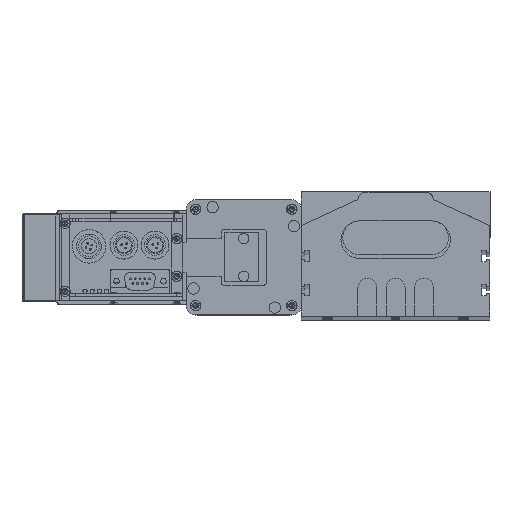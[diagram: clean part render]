
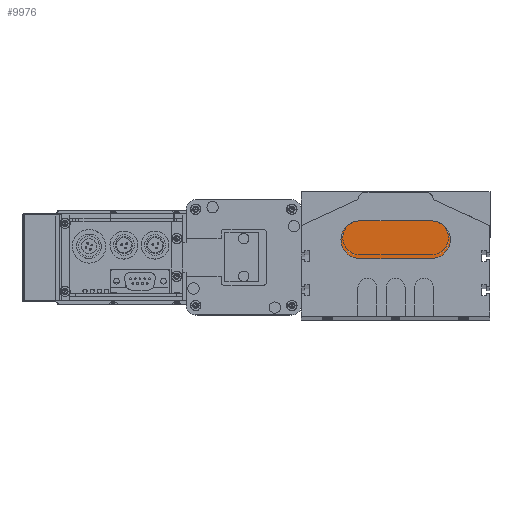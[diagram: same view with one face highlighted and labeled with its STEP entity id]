
A CAD part, top view. The second image highlights one B-rep face of the part: STEP entity #9976.
In plain terms, the highlighted planar face has unit normal (0, 0, 1).
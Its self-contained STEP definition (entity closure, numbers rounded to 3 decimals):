
#9254 = VERTEX_POINT ( 'NONE', #15575 ) ;
#9976 = ADVANCED_FACE ( 'NONE', ( #17580 ), #17545, .T. ) ;
#10046 = VERTEX_POINT ( 'NONE', #17784 ) ;
#10050 = EDGE_CURVE ( 'NONE', #10046, #10826, #17785, .T. ) ;
#10053 = EDGE_CURVE ( 'NONE', #10901, #10046, #17783, .T. ) ;
#10056 = ORIENTED_EDGE ( 'NONE', *, *, #10846, .T. ) ;
#10057 = EDGE_LOOP ( 'NONE', ( #35208, #10871, #10056, #35207, #10154 ) ) ;
#10154 = ORIENTED_EDGE ( 'NONE', *, *, #10050, .T. ) ;
#10610 = EDGE_CURVE ( 'NONE', #10826, #9254, #18563, .T. ) ;
#10826 = VERTEX_POINT ( 'NONE', #18892 ) ;
#10846 = EDGE_CURVE ( 'NONE', #12650, #10901, #18934, .T. ) ;
#10871 = ORIENTED_EDGE ( 'NONE', *, *, #12510, .T. ) ;
#10901 = VERTEX_POINT ( 'NONE', #19004 ) ;
#12510 = EDGE_CURVE ( 'NONE', #9254, #12650, #19507, .T. ) ;
#12650 = VERTEX_POINT ( 'NONE', #19483 ) ;
#15575 = CARTESIAN_POINT ( 'NONE',  ( -10., 10., 10. ) ) ;
#17545 = PLANE ( 'NONE',  #17644 ) ;
#17546 = DIRECTION ( 'NONE',  ( 0., 0., 1. ) ) ;
#17574 = CARTESIAN_POINT ( 'NONE',  ( 0., 10., 10. ) ) ;
#17580 = FACE_OUTER_BOUND ( 'NONE', #10057, .T. ) ;
#17633 = DIRECTION ( 'NONE',  ( 1., 0., 0. ) ) ;
#17644 = AXIS2_PLACEMENT_3D ( 'NONE', #17574, #17546, #17633 ) ;
#17772 = DIRECTION ( 'NONE',  ( -1., 0., 0. ) ) ;
#17773 = DIRECTION ( 'NONE',  ( 0., 0., 1. ) ) ;
#17774 = CARTESIAN_POINT ( 'NONE',  ( 38., 10., 10. ) ) ;
#17775 = AXIS2_PLACEMENT_3D ( 'NONE', #17774, #17773, #17772 ) ;
#17778 = DIRECTION ( 'NONE',  ( -1., 0., 0. ) ) ;
#17779 = VECTOR ( 'NONE', #17778, 1000. ) ;
#17780 = CARTESIAN_POINT ( 'NONE',  ( 0., 20., 10. ) ) ;
#17783 = CIRCLE ( 'NONE', #17775, 10. ) ;
#17784 = CARTESIAN_POINT ( 'NONE',  ( 38., 20., 10. ) ) ;
#17785 = LINE ( 'NONE', #17780, #17779 ) ;
#18554 = DIRECTION ( 'NONE',  ( 1., 0., 0. ) ) ;
#18555 = DIRECTION ( 'NONE',  ( 0., 0., 1. ) ) ;
#18560 = CARTESIAN_POINT ( 'NONE',  ( 0., 10., 10. ) ) ;
#18563 = CIRCLE ( 'NONE', #18569, 10. ) ;
#18569 = AXIS2_PLACEMENT_3D ( 'NONE', #18560, #18555, #18554 ) ;
#18892 = CARTESIAN_POINT ( 'NONE',  ( 0., 20., 10. ) ) ;
#18931 = DIRECTION ( 'NONE',  ( 1., 0., 0. ) ) ;
#18932 = VECTOR ( 'NONE', #18931, 1000. ) ;
#18933 = CARTESIAN_POINT ( 'NONE',  ( 0., 0., 10. ) ) ;
#18934 = LINE ( 'NONE', #18933, #18932 ) ;
#19004 = CARTESIAN_POINT ( 'NONE',  ( 38., 0., 10. ) ) ;
#19449 = AXIS2_PLACEMENT_3D ( 'NONE', #19500, #19499, #19498 ) ;
#19483 = CARTESIAN_POINT ( 'NONE',  ( 0., 0., 10. ) ) ;
#19498 = DIRECTION ( 'NONE',  ( 1., 0., 0. ) ) ;
#19499 = DIRECTION ( 'NONE',  ( 0., 0., 1. ) ) ;
#19500 = CARTESIAN_POINT ( 'NONE',  ( 0., 10., 10. ) ) ;
#19507 = CIRCLE ( 'NONE', #19449, 10. ) ;
#35207 = ORIENTED_EDGE ( 'NONE', *, *, #10053, .T. ) ;
#35208 = ORIENTED_EDGE ( 'NONE', *, *, #10610, .T. ) ;
